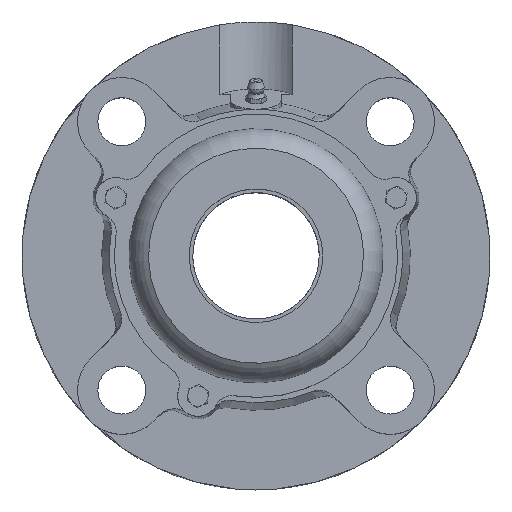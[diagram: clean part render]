
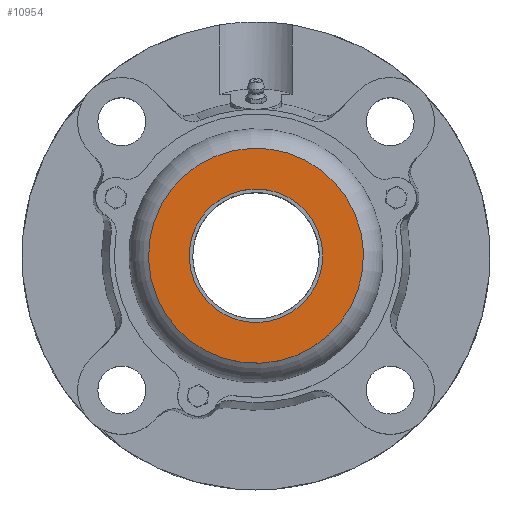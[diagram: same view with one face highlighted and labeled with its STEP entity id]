
A CAD part, top view. The second image highlights one B-rep face of the part: STEP entity #10954.
In plain terms, the highlighted planar face has unit normal (0, 0, 1).
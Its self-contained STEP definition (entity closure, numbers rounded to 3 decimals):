
#10219=CARTESIAN_POINT('',(26.4,0.,33.5));
#10220=VERTEX_POINT('',#10219);
#10221=CARTESIAN_POINT('',(0.0,0.0,33.5));
#10222=DIRECTION('',(0.0,0.0,-1.0));
#10223=DIRECTION('',(-1.0,0.0,0.0));
#10224=AXIS2_PLACEMENT_3D('',#10221,#10222,#10223);
#10225=CIRCLE('',#10224,26.4);
#10226=EDGE_CURVE('',#10220,#10220,#10225,.T.);
#10928=CARTESIAN_POINT('',(0.0,42.5,33.5));
#10929=VERTEX_POINT('',#10928);
#10930=CARTESIAN_POINT('',(0.0,0.,33.5));
#10931=DIRECTION('',(0.0,0.0,1.0));
#10932=DIRECTION('',(0.0,1.0,0.0));
#10933=AXIS2_PLACEMENT_3D('',#10930,#10931,#10932);
#10934=CIRCLE('',#10933,42.5);
#10935=EDGE_CURVE('',#10929,#10929,#10934,.T.);
#10943=CARTESIAN_POINT('',(0.,60.547,33.5));
#10944=DIRECTION('',(0.0,0.0,1.0));
#10945=DIRECTION('',(1.0,0.0,0.0));
#10946=AXIS2_PLACEMENT_3D('',#10943,#10944,#10945);
#10947=PLANE('',#10946);
#10948=ORIENTED_EDGE('',*,*,#10935,.T.);
#10949=EDGE_LOOP('',(#10948));
#10950=FACE_OUTER_BOUND('',#10949,.T.);
#10951=ORIENTED_EDGE('',*,*,#10226,.T.);
#10952=EDGE_LOOP('',(#10951));
#10953=FACE_BOUND('',#10952,.T.);
#10954=ADVANCED_FACE('',(#10950,#10953),#10947,.T.);
